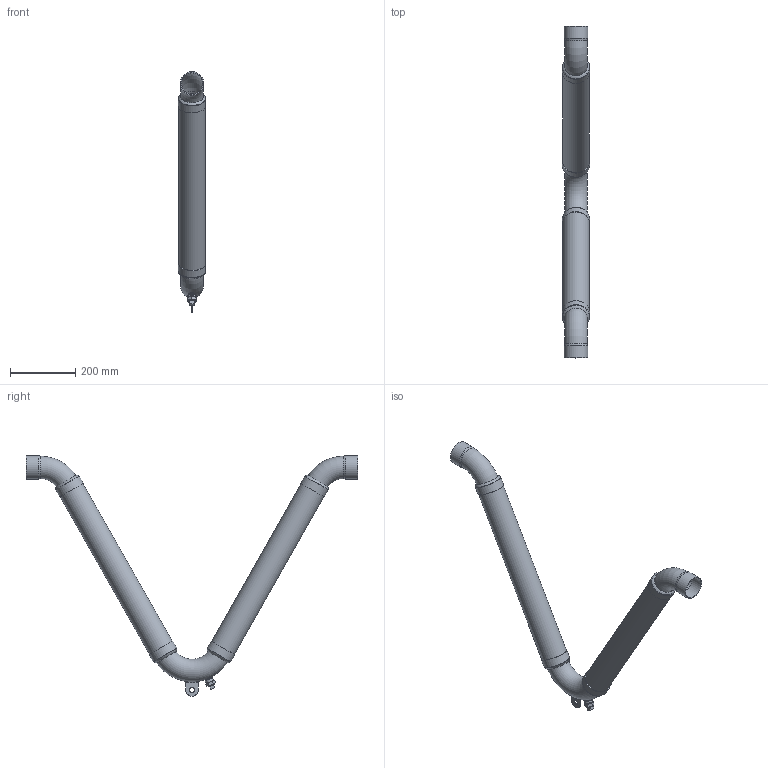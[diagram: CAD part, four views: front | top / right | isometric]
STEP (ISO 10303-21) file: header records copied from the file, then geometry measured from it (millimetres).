
FILE_DESCRIPTION((''),'2;1');
FILE_NAME('C:\REVIT SHARED FILES\STP\VCPSB\VCPSB-2_5.stp','2013-08-08T10:40:59',('rramoutar'),(''),'Autodesk Inventor 2012','Autodesk Inventor 2012','');
FILE_SCHEMA(('AUTOMOTIVE_DESIGN { 1 0 10303 214 1 1 1 1 }'));
Length unit declared in the file: inch
Products named in the file (9): A-31298-2 VCPSB 2.5 inch.iam (HO HOSE); A-31298-2 VCPSB 2.5 inch.iam (HO HOSE)_Welds; A-31130-3 VCPSB 2.5  inch 120 DEGREE ELBOW; A-31301-2 BRASS, CAST PLUG 0.5 inch; A-31301-2 COPPER FEMALE ADAPTER 0.5 inch; A-31303 VCPS & VCPSB 2.0 inch TO 2.5 inch SUPPORT CLIP; A-31122-3 VCPSB 2.5  inch 60 DEGREE ELBOW; A-31011 BRONZE HOSE BRAID COLLAR 2.5 inch; A-31298-2 VCPSB 2.5 inch PHOSPHOR BRONZE BRAID
Assembly tree (13 placements, depth 2):
  A-31298-2 VCPSB 2.5 inch.iam (HO HOSE)
    A-31298-2 VCPSB 2.5 inch.iam (HO HOSE)_Welds
    A-31130-3 VCPSB 2.5  inch 120 DEGREE ELBOW
    A-31301-2 BRASS, CAST PLUG 0.5 inch
    A-31301-2 COPPER FEMALE ADAPTER 0.5 inch
    A-31303 VCPS & VCPSB 2.0 inch TO 2.5 inch SUPPORT CLIP
    A-31122-3 VCPSB 2.5  inch 60 DEGREE ELBOW  x2
    A-31011 BRONZE HOSE BRAID COLLAR 2.5 inch  x4
    A-31298-2 VCPSB 2.5 inch PHOSPHOR BRONZE BRAID  x2
Bounding box: 83.73 x 1017.59 x 737.59 mm (x, y, z)
Volume: 459768.5 mm3; surface area: 909489.8 mm2
Topology: 18 solids, 18 shells, 107 faces, 229 edges, 153 vertices
Faces by surface type: plane 52, cylinder 26, torus 12, bspline 9, cone 8
Full cylindrical faces by diameter (mm): 14.408 x1, 15.767 x1, 15.875 x1, 18.256 x3, 20.32 x1, 21.336 x1, 24.74 x1, 67.005 x2, 71.831 x2, 79.756 x2, 80.569 x6, 83.744 x4
Entity records: 6338 total; most frequent: CARTESIAN_POINT 4396, DIRECTION 326, ORIENTED_EDGE 292, EDGE_CURVE 146, AXIS2_PLACEMENT_3D 144, EDGE_LOOP 135, VERTEX_POINT 115, FACE_OUTER_BOUND 83
